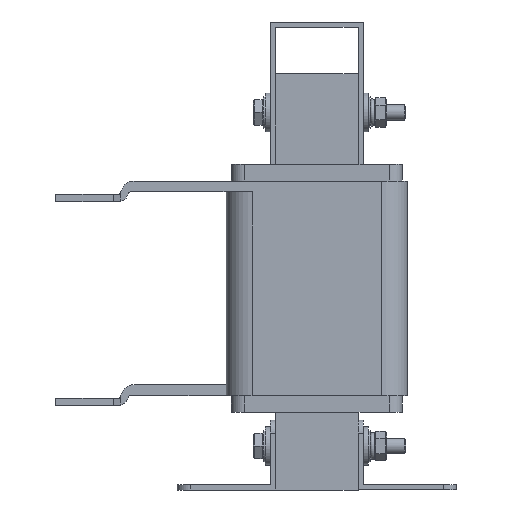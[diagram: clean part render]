
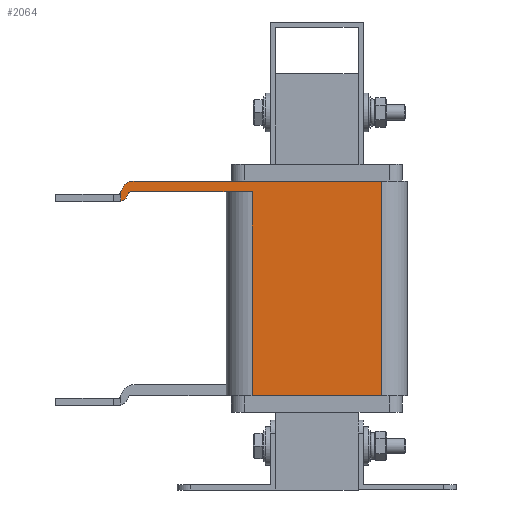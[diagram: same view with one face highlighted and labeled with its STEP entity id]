
A CAD part, left-side view. The second image highlights one B-rep face of the part: STEP entity #2064.
In plain terms, the highlighted planar face has unit normal (-1, 0, 0).
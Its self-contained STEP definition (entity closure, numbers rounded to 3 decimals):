
#2064=ADVANCED_FACE('',(#2550),#2552,.T.);
#2550=FACE_BOUND('',#2551,.T.);
#2551=EDGE_LOOP('',(#3707,#3708,#3709,#3710,#3711,#3712,#3713,#3714,#3715,#3716,
#3717));
#2552=PLANE('',#2553);
#2553=AXIS2_PLACEMENT_3D('',#2554,#2555,#2556);
#2554=CARTESIAN_POINT('',(-33.,25.,0.));
#2555=DIRECTION('',(-1.,0.,0.));
#2556=DIRECTION('',(0.,-1.,0.));
#3707=ORIENTED_EDGE('',*,*,#4345,.F.);
#3708=ORIENTED_EDGE('',*,*,#4346,.F.);
#3709=ORIENTED_EDGE('',*,*,#4347,.F.);
#3710=ORIENTED_EDGE('',*,*,#4348,.F.);
#3711=ORIENTED_EDGE('',*,*,#4349,.F.);
#3712=ORIENTED_EDGE('',*,*,#4350,.F.);
#3713=ORIENTED_EDGE('',*,*,#4351,.F.);
#3714=ORIENTED_EDGE('',*,*,#4352,.F.);
#3715=ORIENTED_EDGE('',*,*,#4353,.T.);
#3716=ORIENTED_EDGE('',*,*,#4354,.T.);
#3717=ORIENTED_EDGE('',*,*,#4355,.F.);
#4345=EDGE_CURVE('',#4810,#4811,#4812,.F.);
#4346=EDGE_CURVE('',#4813,#4810,#4814,.F.);
#4347=EDGE_CURVE('',#4815,#4813,#4816,.T.);
#4348=EDGE_CURVE('',#4817,#4815,#4818,.T.);
#4349=EDGE_CURVE('',#4819,#4817,#4820,.T.);
#4350=EDGE_CURVE('',#4821,#4819,#4822,.F.);
#4351=EDGE_CURVE('',#4823,#4821,#4824,.T.);
#4352=EDGE_CURVE('',#4825,#4823,#4826,.T.);
#4353=EDGE_CURVE('',#4825,#4827,#4828,.T.);
#4354=EDGE_CURVE('',#4827,#4829,#4830,.T.);
#4355=EDGE_CURVE('',#4811,#4829,#4831,.T.);
#4810=VERTEX_POINT('',#5730);
#4811=VERTEX_POINT('',#5731);
#4812=CIRCLE('',#5732,5.2);
#4813=VERTEX_POINT('',#5736);
#4814=CIRCLE('',#5737,1.);
#4815=VERTEX_POINT('',#5741);
#4816=LINE('',#5742,#5743);
#4817=VERTEX_POINT('',#5745);
#4818=LINE('',#5746,#5747);
#4819=VERTEX_POINT('',#5749);
#4820=CIRCLE('',#5750,3.8);
#4821=VERTEX_POINT('',#5754);
#4822=CIRCLE('',#5755,1.);
#4823=VERTEX_POINT('',#5759);
#4824=LINE('',#5760,#5761);
#4825=VERTEX_POINT('',#5763);
#4826=LINE('',#5764,#5765);
#4827=VERTEX_POINT('',#5767);
#4828=LINE('',#5768,#5769);
#4829=VERTEX_POINT('',#5771);
#4830=LINE('',#5772,#5773);
#4831=LINE('',#5775,#5776);
#5730=CARTESIAN_POINT('',(-33.,75.813,78.639));
#5731=CARTESIAN_POINT('',(-33.,70.681,83.));
#5732=AXIS2_PLACEMENT_3D('',#5733,#5734,#5735);
#5733=CARTESIAN_POINT('',(-33.,70.681,77.8));
#5734=DIRECTION('',(-1.,0.,0.));
#5735=DIRECTION('',(0.,0.,1.));
#5736=CARTESIAN_POINT('',(-33.,76.8,77.8));
#5737=AXIS2_PLACEMENT_3D('',#5738,#5739,#5740);
#5738=CARTESIAN_POINT('',(-33.,76.8,78.8));
#5739=DIRECTION('',(1.,0.,-0.));
#5740=DIRECTION('',(0.,-0.987,-0.161));
#5741=CARTESIAN_POINT('',(-33.,75.829,77.8));
#5742=CARTESIAN_POINT('',(-33.,75.829,77.8));
#5743=VECTOR('',#5744,1.);
#5744=DIRECTION('',(0.,1.,0.));
#5745=CARTESIAN_POINT('',(-33.,75.829,75.1));
#5746=CARTESIAN_POINT('',(-33.,75.829,75.1));
#5747=VECTOR('',#5748,1.);
#5748=DIRECTION('',(0.,0.,1.));
#5749=CARTESIAN_POINT('',(-33.,72.978,78.008));
#5750=AXIS2_PLACEMENT_3D('',#5751,#5752,#5753);
#5751=CARTESIAN_POINT('',(-33.,76.695,78.8));
#5752=DIRECTION('',(1.,0.,0.));
#5753=DIRECTION('',(0.,-0.978,-0.208));
#5754=CARTESIAN_POINT('',(-33.,72.,78.8));
#5755=AXIS2_PLACEMENT_3D('',#5756,#5757,#5758);
#5756=CARTESIAN_POINT('',(-33.,72.,77.8));
#5757=DIRECTION('',(1.,0.,-0.));
#5758=DIRECTION('',(0.,0.978,0.208));
#5759=CARTESIAN_POINT('',(-33.,25.,78.8));
#5760=CARTESIAN_POINT('',(-33.,25.,78.8));
#5761=VECTOR('',#5762,1.);
#5762=DIRECTION('',(0.,1.,0.));
#5763=CARTESIAN_POINT('',(-33.,25.,0.));
#5764=CARTESIAN_POINT('',(-33.,25.,0.));
#5765=VECTOR('',#5766,1.);
#5766=DIRECTION('',(0.,0.,1.));
#5767=CARTESIAN_POINT('',(-33.,-25.,0.));
#5768=CARTESIAN_POINT('',(-33.,25.,0.));
#5769=VECTOR('',#5770,1.);
#5770=DIRECTION('',(0.,-1.,0.));
#5771=CARTESIAN_POINT('',(-33.,-25.,83.));
#5772=CARTESIAN_POINT('',(-33.,-25.,0.));
#5773=VECTOR('',#5774,1.);
#5774=DIRECTION('',(0.,0.,1.));
#5775=CARTESIAN_POINT('',(-33.,70.681,83.));
#5776=VECTOR('',#5777,1.);
#5777=DIRECTION('',(0.,-1.,0.));
